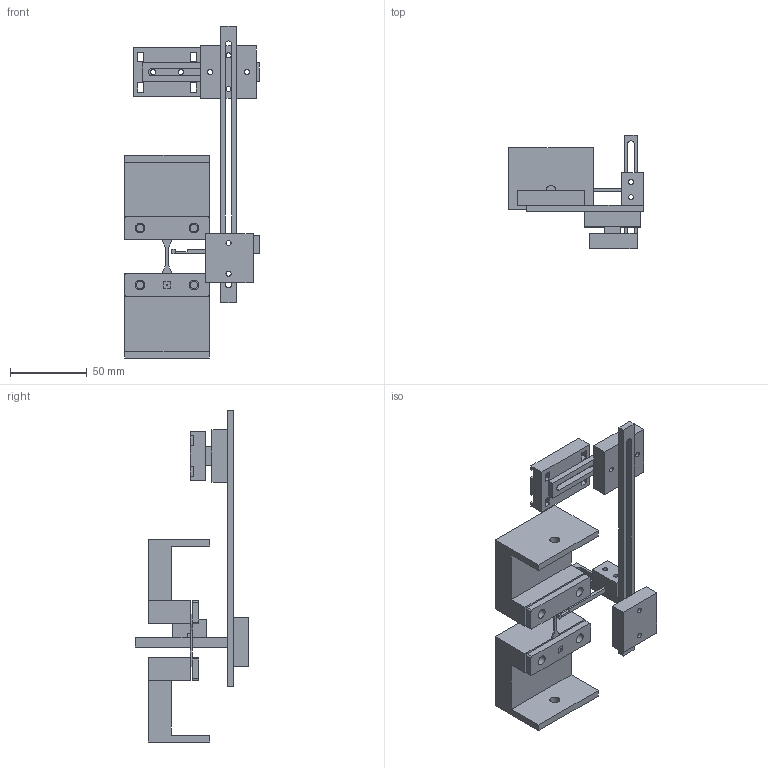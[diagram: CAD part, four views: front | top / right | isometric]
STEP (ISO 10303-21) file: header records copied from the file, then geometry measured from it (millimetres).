
FILE_DESCRIPTION(('Open CASCADE Model'),'2;1');
FILE_NAME('Open CASCADE Shape Model','2026-11-08T05:54:20',('Author'),( 'Open CASCADE'),'Open CASCADE STEP processor 7.8','Open CASCADE 7.8' ,'Unknown');
FILE_SCHEMA(('AUTOMOTIVE_DESIGN { 1 0 10303 214 1 1 1 1 }'));
Length unit declared in the file: millimetre
Products named in the file (14): nominal_installation_reference_only; lower_mount_reference; lower_cover_reference; upper_mount_reference; upper_cover_reference; nominal_specimen_reference; fixed_white_label_reference; fixed_black_dot_reference; moving_strap_mount; moving_horizontal_bar; moving_corner; moving_vertical_rail; moving_depth_carriage; moving_target_arm
Assembly tree (13 placements, depth 2):
  nominal_installation_reference_only
    lower_mount_reference
    lower_cover_reference
    upper_mount_reference
    upper_cover_reference
    nominal_specimen_reference
    fixed_white_label_reference
    fixed_black_dot_reference
    moving_strap_mount
    moving_horizontal_bar
    moving_corner
    moving_vertical_rail
    moving_depth_carriage
    moving_target_arm
Bounding box: 87.5 x 74 x 216 mm (x, y, z)
Volume: 175370.6 mm3; surface area: 61917.1 mm2
Topology: 15 solids, 15 shells, 187 faces, 477 edges, 318 vertices
Faces by surface type: plane 152, cylinder 35
Full cylindrical faces by diameter (mm): 1 x1, 3.3 x10, 5 x4, 6.3 x6
Entity records: 12293 total; most frequent: CARTESIAN_POINT 2070, DIRECTION 1883, LINE 1291, VECTOR 1291, ORIENTED_EDGE 954, PCURVE 954, DEFINITIONAL_REPRESENTATION 954, EDGE_CURVE 477
